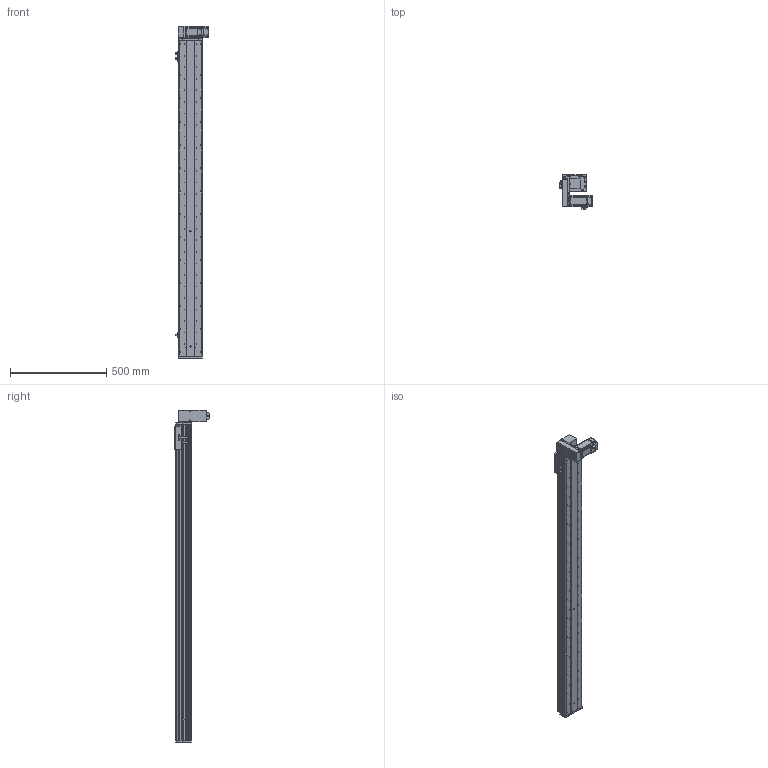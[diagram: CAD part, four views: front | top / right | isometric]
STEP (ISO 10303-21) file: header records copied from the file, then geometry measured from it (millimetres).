
FILE_DESCRIPTION (( 'STEP AP214' ), '1' );
FILE_NAME ('KSD125B-S1450-MRD-CM.STEP', '2017-10-21T06:37:16', ( '微软用户' ), ( '微软中国' ), 'SwSTEP 2.0', 'SolidWorks 2014', '' );
FILE_SCHEMA (( 'AUTOMOTIVE_DESIGN' ));
Length unit declared in the file: millimetre
Products named in the file (17): HTPA30S3M150_A_H6_a佪裝蚚; HTPA30S3M150_A_H6_a萇儂蚚; 100宽马达安装板连板上下折丝杆同步带; KSD125模组1450行程同步带-防尘盖; 125模组1450行程同步带-底板; MHMD042G1CA_2_03; KSD125模组同步带-防撞垫2; 覜茼え68遵圉猾敕; U倰嫖萇假蚾璃; U倰嫖萇EEㄜSX672; KSD125模组同步带-防撞垫1; 100宽马达安装板同步带右; 前端板-125宽模组同步带; 125模组同步带-尾端板1; KSD125模组同步带-滑动座1; KSD125B-S1450-MRD-CM; 悵誘欶奻狟殏
Assembly tree (20 placements, depth 2):
  KSD125B-S1450-MRD-CM
    KSD125模组同步带-滑动座1
    125模组同步带-尾端板1
    前端板-125宽模组同步带
    100宽马达安装板同步带右
    KSD125模组同步带-防撞垫1
    U倰嫖萇EEㄜSX672  x3
    U倰嫖萇假蚾璃  x3
    覜茼え68遵圉猾敕
    KSD125模组同步带-防撞垫2
    MHMD042G1CA_2_03
    125模组1450行程同步带-底板
    KSD125模组1450行程同步带-防尘盖
    100宽马达安装板连板上下折丝杆同步带
    HTPA30S3M150_A_H6_a萇儂蚚
    HTPA30S3M150_A_H6_a佪裝蚚
    悵誘欶奻狟殏
Bounding box: 168.7 x 179.5 x 1727 mm (x, y, z)
Volume: 5126424.8 mm3; surface area: 1699488.9 mm2
Topology: 19 solids, 22 shells, 2383 faces, 6913 edges, 4570 vertices
Faces by surface type: cylinder 1520, plane 736, cone 105, bspline 22
Entity records: 85343 total; most frequent: CARTESIAN_POINT 16791, DIRECTION 13254, ORIENTED_EDGE 12346, EDGE_CURVE 6251, AXIS2_PLACEMENT_3D 5145, VERTEX_POINT 4162, CIRCLE 2980, VECTOR 2964
